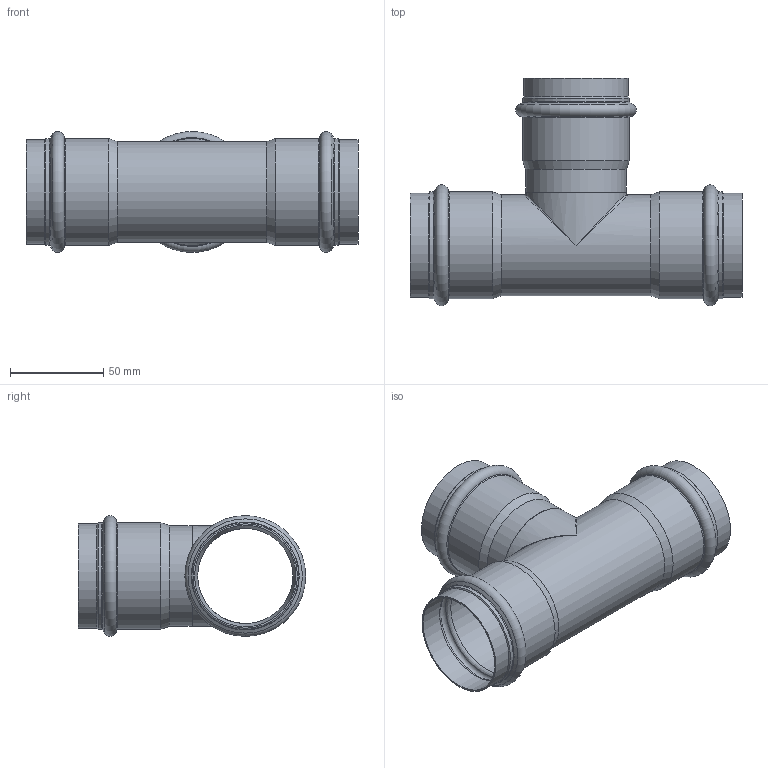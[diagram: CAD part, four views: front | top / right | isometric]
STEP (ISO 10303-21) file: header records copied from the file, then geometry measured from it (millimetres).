
FILE_DESCRIPTION((''),'2;1');
FILE_NAME('G:\Nirosan-Schmiedefeld\Technics\CAD\Bauteile VA\054\6913054(3).stp','2009-12-08T13:55:15',('herberg'),(''),'Autodesk Inventor 2009','Autodesk Inventor 2009','');
FILE_SCHEMA(('AUTOMOTIVE_DESIGN { 1 0 10303 214 1 1 1 1 }'));
Length unit declared in the file: millimetre
Products named in the file (3): 6913054(3); LM_6913054(3); HM_6913054(2)
Assembly tree (2 placements, depth 2):
  6913054(3)
    LM_6913054(3)
    HM_6913054(2)
Bounding box: 178 x 121.9 x 64.8 mm (x, y, z)
Volume: 60093.5 mm3; surface area: 86192 mm2
Topology: 2 solids, 2 shells, 63 faces, 137 edges, 70 vertices
Faces by surface type: cylinder 21, bspline 15, cone 15, torus 7, plane 5
Full cylindrical faces by diameter (mm): 51 x3, 54 x3, 54.35 x6, 55.95 x3, 57.35 x6
Entity records: 2516 total; most frequent: CARTESIAN_POINT 1396, DIRECTION 238, ORIENTED_EDGE 132, EDGE_LOOP 124, AXIS2_PLACEMENT_3D 119, EDGE_CURVE 66, FACE_OUTER_BOUND 63, ADVANCED_FACE 63
